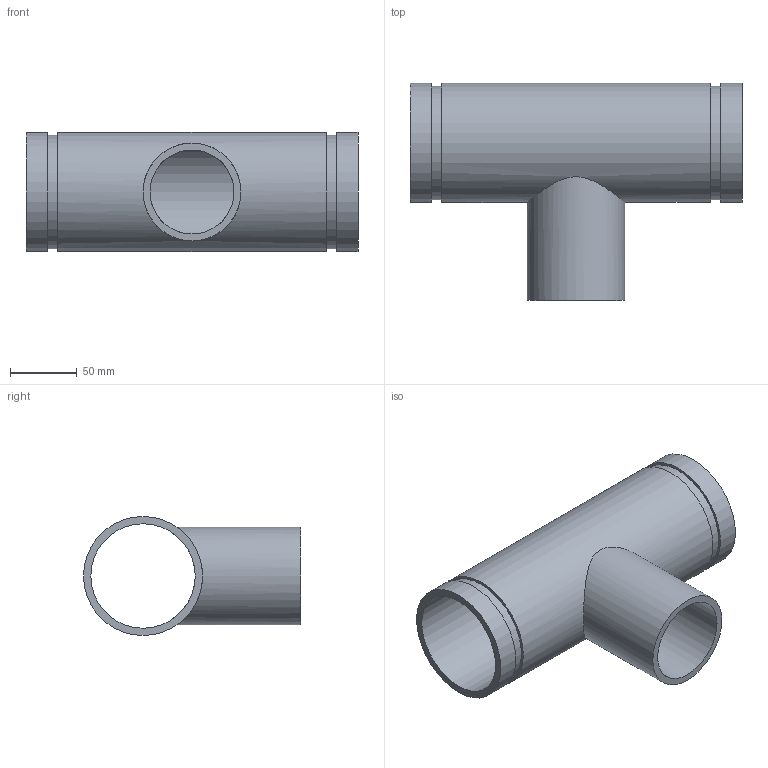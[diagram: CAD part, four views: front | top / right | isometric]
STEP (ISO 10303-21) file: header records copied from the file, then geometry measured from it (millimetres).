
FILE_DESCRIPTION(/* description */ ('VIC REDUCING TEE No 29T FFT (OGSxMPT)','CAx-IF Rec.Pracs.---Representation and Presentation of Product Manufacturing Information (PMI)---4.0---2014-10-13'),/* implementation_level */ '2;1');
FILE_NAME(/* name */ 'C:\Users\kkamble\AppData\Roaming\Autodesk\ApplicationPlugins\Back Up\Victaulic_IPS_Tee Reducing_No 29T FFT (OGSxMPT)\Victaulic_IPS_Tee Reducing_No 29T FFT (OGSxMPT)_03.0x02.5 (80x65).stp',/* time_stamp */ '2020-09-16T22:37:50+05:00',/* author */ ('CORINNE GRAY'),/* organization */ ('Victaulic'),/* preprocessor_version */ 'ST-DEVELOPER v17.2',/* originating_system */ 'Autodesk Inventor 2019',/* authorisation */ '');
FILE_SCHEMA (('AP242_MANAGED_MODEL_BASED_3D_ENGINEERING_MIM_LF { 1 0 10303 442 1 1 4 }'));
Length unit declared in the file: inch
Products named in the file (1): 29 FFT-03.0x02.5
Bounding box: 247.9 x 162.05 x 88.9 mm (x, y, z)
Volume: 417987.6 mm3; surface area: 163522.9 mm2
Topology: 1 solids, 1 shells, 15 faces, 32 edges, 24 vertices
Faces by surface type: cylinder 8, plane 7
Full cylindrical faces by diameter (mm): 62.713 x1, 73.025 x1, 77.927 x1, 84.938 x2, 88.9 x3
Entity records: 709 total; most frequent: CARTESIAN_POINT 221, DIRECTION 106, ORIENTED_EDGE 64, AXIS2_PLACEMENT_3D 49, EDGE_CURVE 32, EDGE_LOOP 24, VERTEX_POINT 24, CIRCLE 20
